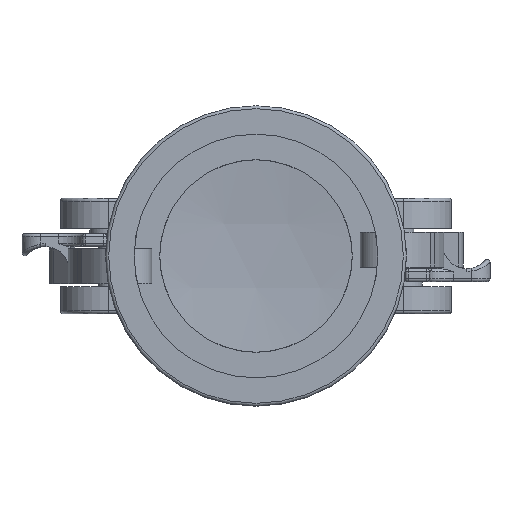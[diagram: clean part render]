
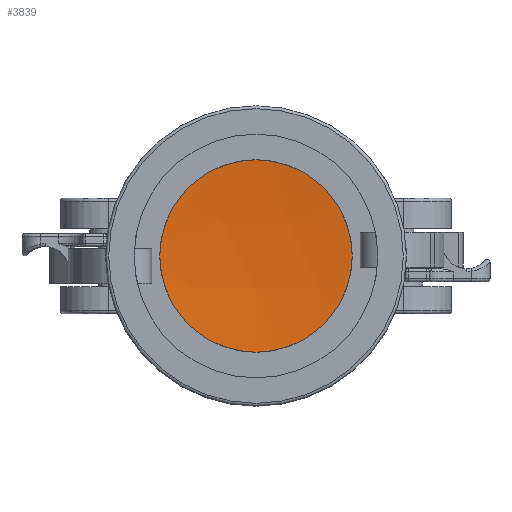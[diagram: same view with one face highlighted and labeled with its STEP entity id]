
A CAD part, left-side view. The second image highlights one B-rep face of the part: STEP entity #3839.
In plain terms, the highlighted spherical face has radius 212.429 mm.
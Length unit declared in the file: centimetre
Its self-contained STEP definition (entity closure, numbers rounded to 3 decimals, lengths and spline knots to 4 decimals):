
#50=SPHERICAL_SURFACE('',#4159,21.2429);
#1429=VERTEX_POINT('',#6516);
#1677=CIRCLE('',#4160,2.5372);
#2024=EDGE_CURVE('',#1429,#1429,#1677,.T.);
#2751=ORIENTED_EDGE('',*,*,#2024,.F.);
#3351=EDGE_LOOP('',(#2751));
#3605=FACE_BOUND('',#3351,.T.);
#3839=ADVANCED_FACE('',(#3605),#50,.F.);
#4159=AXIS2_PLACEMENT_3D('',#6514,#4855,#4856);
#4160=AXIS2_PLACEMENT_3D('',#6515,#4857,#4858);
#4855=DIRECTION('',(0.,0.,1.));
#4856=DIRECTION('',(1.,0.,0.));
#4857=DIRECTION('',(1.,0.,0.));
#4858=DIRECTION('',(0.,0.,-2.537));
#6514=CARTESIAN_POINT('',(-16.1378,0.,0.));
#6515=CARTESIAN_POINT('',(4.953,0.,0.));
#6516=CARTESIAN_POINT('',(4.953,0.,2.5372));
